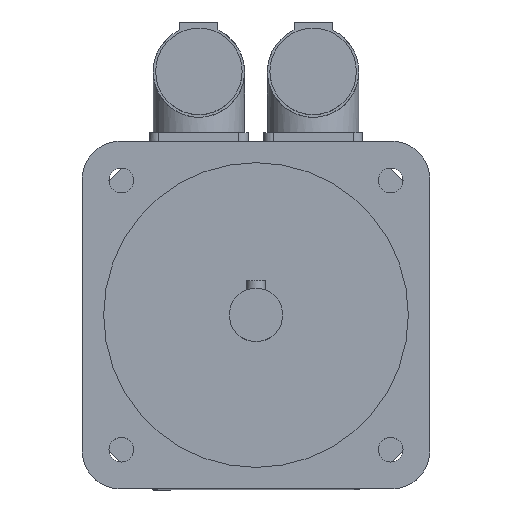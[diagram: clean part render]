
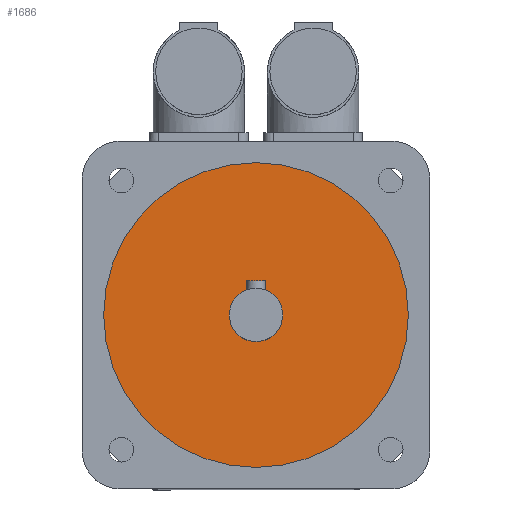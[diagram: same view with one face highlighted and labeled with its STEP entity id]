
A CAD part, top view. The second image highlights one B-rep face of the part: STEP entity #1686.
In plain terms, the highlighted planar face has unit normal (0, 0, 1).
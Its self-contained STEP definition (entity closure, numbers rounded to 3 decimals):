
#28=FACE_BOUND('',#305,.T.);
#53=CIRCLE('',#1788,7.);
#54=CIRCLE('',#1791,40.);
#202=FACE_OUTER_BOUND('',#304,.T.);
#304=EDGE_LOOP('',(#1158));
#305=EDGE_LOOP('',(#1159));
#718=VERTEX_POINT('',#2569);
#719=VERTEX_POINT('',#2573);
#892=EDGE_CURVE('',#718,#718,#53,.T.);
#893=EDGE_CURVE('',#719,#719,#54,.T.);
#1158=ORIENTED_EDGE('',*,*,#893,.T.);
#1159=ORIENTED_EDGE('',*,*,#892,.T.);
#1633=PLANE('',#1793);
#1686=ADVANCED_FACE('',(#202,#28),#1633,.T.);
#1788=AXIS2_PLACEMENT_3D('',#2570,#2000,#2001);
#1791=AXIS2_PLACEMENT_3D('',#2574,#2006,#2007);
#1793=AXIS2_PLACEMENT_3D('',#2577,#2010,#2011);
#2000=DIRECTION('center_axis',(0.,0.,-1.));
#2001=DIRECTION('ref_axis',(-1.,0.,0.));
#2006=DIRECTION('center_axis',(0.,0.,1.));
#2007=DIRECTION('ref_axis',(-1.,0.,0.));
#2010=DIRECTION('center_axis',(0.,0.,1.));
#2011=DIRECTION('ref_axis',(1.,0.,0.));
#2569=CARTESIAN_POINT('',(7.,0.,142.5));
#2570=CARTESIAN_POINT('Origin',(0.,0.,142.5));
#2573=CARTESIAN_POINT('',(40.,0.,142.5));
#2574=CARTESIAN_POINT('Origin',(0.,0.,142.5));
#2577=CARTESIAN_POINT('Origin',(0.,0.,
142.5));
